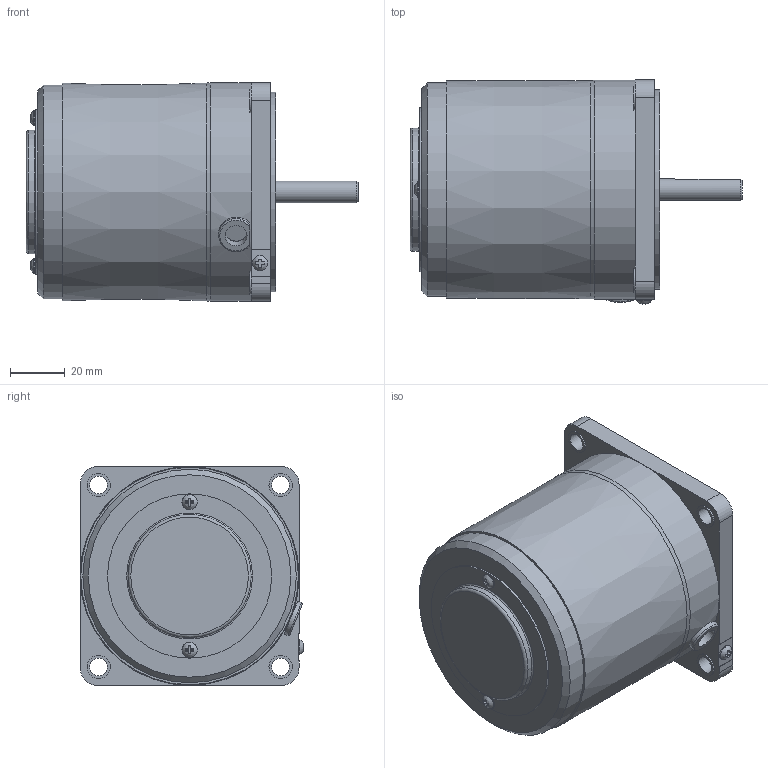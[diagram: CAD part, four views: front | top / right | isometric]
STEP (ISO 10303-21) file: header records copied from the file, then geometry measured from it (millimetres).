
FILE_DESCRIPTION(/* description */ (''),/* implementation_level */ '2;1');
FILE_NAME(/* name */ 'E:\도면작업\2016\0704) 미주향 SG 도면\3D MOTOR\SG6R\SG8R25K\SG8R25K_.stp',/* time_stamp */ '2016-12-12T16:32:08+09:00',/* author */ ('jy-jung'),/* organization */ (''),/* preprocessor_version */ 'ST-DEVELOPER v15.6',/* originating_system */ 'Autodesk Inventor 2015',/* authorisation */ '');
FILE_SCHEMA (('AUTOMOTIVE_DESIGN { 1 0 10303 214 3 1 1 }'));
Length unit declared in the file: millimetre
Products named in the file (1): 부품5
Bounding box: 121.3 x 81.76 x 80 mm (x, y, z)
Volume: 430781.3 mm3; surface area: 41659 mm2
Topology: 1 solids, 5 shells, 163 faces, 392 edges, 258 vertices
Faces by surface type: plane 105, cylinder 42, torus 10, bspline 3, cone 3
Full cylindrical faces by diameter (mm): 3 x2, 3.5 x2, 5.6 x3, 6.5 x4, 8 x2, 8.5 x4, 34 x1, 43 x1, 45 x1, 60 x1, 73 x1, 78 x1, 80 x1
Entity records: 5018 total; most frequent: CARTESIAN_POINT 1157, DIRECTION 733, ORIENTED_EDGE 708, EDGE_CURVE 354, AXIS2_PLACEMENT_3D 269, VERTEX_POINT 255, EDGE_LOOP 229, LINE 195
